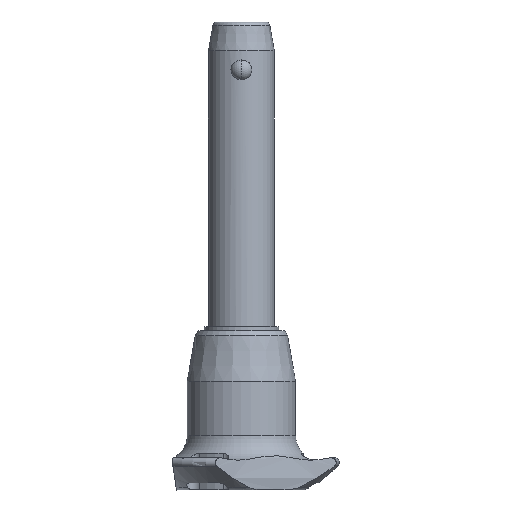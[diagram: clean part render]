
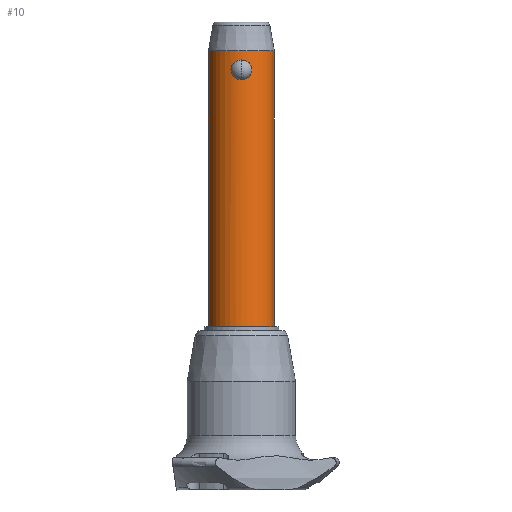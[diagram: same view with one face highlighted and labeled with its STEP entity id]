
A CAD part, front view. The second image highlights one B-rep face of the part: STEP entity #10.
In plain terms, the highlighted cylindrical face has radius 8 mm (diameter 16 mm), a partial arc.
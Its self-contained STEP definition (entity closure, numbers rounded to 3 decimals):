
#4 = VERTEX_POINT ( 'NONE', #998 ) ;
#10 = ADVANCED_FACE ( 'NONE', ( #275, #62 ), #1648, .T. ) ;
#62 = FACE_BOUND ( 'NONE', #1845, .T. ) ;
#83 = DIRECTION ( 'NONE',  ( 1., 0., 0. ) ) ;
#102 = CARTESIAN_POINT ( 'NONE',  ( 2.528, -7.59, 2.058 ) ) ;
#134 = CARTESIAN_POINT ( 'NONE',  ( 1.894, -7.773, 0.773 ) ) ;
#186 = EDGE_CURVE ( 'NONE', #1710, #4, #1014, .T. ) ;
#187 = CARTESIAN_POINT ( 'NONE',  ( -1.106, -7.925, 0.226 ) ) ;
#200 = CARTESIAN_POINT ( 'NONE',  ( -2.211, -7.69, 1.148 ) ) ;
#246 = AXIS2_PLACEMENT_3D ( 'NONE', #2065, #2083, #83 ) ;
#275 = FACE_OUTER_BOUND ( 'NONE', #1431, .T. ) ;
#276 = CARTESIAN_POINT ( 'NONE',  ( -8., 0., -60. ) ) ;
#296 = CARTESIAN_POINT ( 'NONE',  ( 0., -8., 4.775 ) ) ;
#299 = CARTESIAN_POINT ( 'NONE',  ( 2.004, -7.746, 0.894 ) ) ;
#375 = CARTESIAN_POINT ( 'NONE',  ( -2.529, -7.59, 2.716 ) ) ;
#387 = CARTESIAN_POINT ( 'NONE',  ( -2.546, -7.584, 2.553 ) ) ;
#396 = CIRCLE ( 'NONE', #246, 8. ) ;
#405 = CARTESIAN_POINT ( 'NONE',  ( -2.276, -7.67, 3.482 ) ) ;
#419 = CARTESIAN_POINT ( 'NONE',  ( -2.411, -7.628, 1.592 ) ) ;
#424 = DIRECTION ( 'NONE',  ( 0., 0., 1. ) ) ;
#475 = CARTESIAN_POINT ( 'NONE',  ( 8., 0., -60. ) ) ;
#504 = CARTESIAN_POINT ( 'NONE',  ( 2.529, -7.59, 2.71 ) ) ;
#541 = ORIENTED_EDGE ( 'NONE', *, *, #186, .F. ) ;
#548 = CARTESIAN_POINT ( 'NONE',  ( 2.46, -7.613, 1.742 ) ) ;
#563 = CARTESIAN_POINT ( 'NONE',  ( 0., -8., 0. ) ) ;
#573 = CARTESIAN_POINT ( 'NONE',  ( 8., 0., 7. ) ) ;
#591 = CARTESIAN_POINT ( 'NONE',  ( 0., -8., 0. ) ) ;
#631 = CARTESIAN_POINT ( 'NONE',  ( -1.107, -7.924, 4.548 ) ) ;
#644 = CARTESIAN_POINT ( 'NONE',  ( 8., 0., -60. ) ) ;
#654 = EDGE_CURVE ( 'NONE', #2525, #1710, #396, .T. ) ;
#759 = CARTESIAN_POINT ( 'NONE',  ( 0.326, -7.995, 4.761 ) ) ;
#780 = CARTESIAN_POINT ( 'NONE',  ( 0.804, -7.961, 4.661 ) ) ;
#795 = VERTEX_POINT ( 'NONE', #296 ) ;
#803 = CARTESIAN_POINT ( 'NONE',  ( -0.324, -8., 0. ) ) ;
#832 = CARTESIAN_POINT ( 'NONE',  ( -1.254, -7.902, 0.297 ) ) ;
#861 = CARTESIAN_POINT ( 'NONE',  ( -0.645, -7.976, 4.704 ) ) ;
#882 = EDGE_CURVE ( 'NONE', #795, #906, #1556, .T. ) ;
#897 = EDGE_CURVE ( 'NONE', #2525, #1880, #2637, .T. ) ;
#906 = VERTEX_POINT ( 'NONE', #1251 ) ;
#931 = CARTESIAN_POINT ( 'NONE',  ( 0., 0., -60. ) ) ;
#943 = CARTESIAN_POINT ( 'NONE',  ( 1.108, -7.924, 4.548 ) ) ;
#957 = CARTESIAN_POINT ( 'NONE',  ( 2.461, -7.612, 3.027 ) ) ;
#971 = CARTESIAN_POINT ( 'NONE',  ( 0.164, -8., 4.775 ) ) ;
#998 = CARTESIAN_POINT ( 'NONE',  ( -8., 0., 7. ) ) ;
#1003 = VECTOR ( 'NONE', #424, 1000. ) ;
#1007 = CARTESIAN_POINT ( 'NONE',  ( 1.66, -7.827, 4.215 ) ) ;
#1014 = LINE ( 'NONE', #1448, #1003 ) ;
#1047 = CARTESIAN_POINT ( 'NONE',  ( -2.193, -7.694, 3.623 ) ) ;
#1070 = CARTESIAN_POINT ( 'NONE',  ( -1.659, -7.827, 0.559 ) ) ;
#1159 = ORIENTED_EDGE ( 'NONE', *, *, #897, .T. ) ;
#1160 = DIRECTION ( 'NONE',  ( 0., 0., 1. ) ) ;
#1173 = CARTESIAN_POINT ( 'NONE',  ( 2.546, -7.584, 2.22 ) ) ;
#1203 = CARTESIAN_POINT ( 'NONE',  ( 2.275, -7.67, 1.291 ) ) ;
#1221 = CARTESIAN_POINT ( 'NONE',  ( 1.529, -7.854, 0.463 ) ) ;
#1229 = ORIENTED_EDGE ( 'NONE', *, *, #882, .F. ) ;
#1249 = DIRECTION ( 'NONE',  ( 0., 0., -1. ) ) ;
#1251 = CARTESIAN_POINT ( 'NONE',  ( 0., -8., 0. ) ) ;
#1265 = CARTESIAN_POINT ( 'NONE',  ( -2.461, -7.612, 1.746 ) ) ;
#1279 = CARTESIAN_POINT ( 'NONE',  ( -2.459, -7.613, 3.036 ) ) ;
#1397 = VECTOR ( 'NONE', #1714, 1000. ) ;
#1408 = CARTESIAN_POINT ( 'NONE',  ( 2.41, -7.629, 3.184 ) ) ;
#1431 = EDGE_LOOP ( 'NONE', ( #541, #1911, #1159, #1719 ) ) ;
#1441 = CARTESIAN_POINT ( 'NONE',  ( 0., -8., 4.775 ) ) ;
#1448 = CARTESIAN_POINT ( 'NONE',  ( -8., 0., -60. ) ) ;
#1485 = EDGE_CURVE ( 'NONE', #906, #795, #2451, .T. ) ;
#1492 = CARTESIAN_POINT ( 'NONE',  ( -1.252, -7.903, 4.479 ) ) ;
#1507 = CARTESIAN_POINT ( 'NONE',  ( -0.164, -8., 4.775 ) ) ;
#1556 = B_SPLINE_CURVE_WITH_KNOTS ( 'NONE', 3,
 ( #2303, #1507, #2845, #861, #2365, #631, #1492, #2391, #2605, #2406, #2175, #1047, #405, #2801, #1279, #375, #387, #2418, #1687, #1265, #419, #200, #1904, #1070, #2146, #832, #187, #2582, #803, #591 ),
 .UNSPECIFIED., .F., .F.,
 ( 4, 2, 2, 2, 2, 2, 2, 2, 2, 2, 2, 2, 2, 2, 4 ),
 ( 0., 0., 0.001, 0.001, 0.002, 0.002, 0.003, 0.003, 0.004, 0.004, 0.005, 0.006, 0.006, 0.007, 0.008 ),
 .UNSPECIFIED. ) ;
#1648 = CYLINDRICAL_SURFACE ( 'NONE', #2657, 8. ) ;
#1649 = ORIENTED_EDGE ( 'NONE', *, *, #1485, .F. ) ;
#1657 = CARTESIAN_POINT ( 'NONE',  ( 1.105, -7.925, 0.226 ) ) ;
#1672 = CARTESIAN_POINT ( 'NONE',  ( 1.252, -7.903, 0.296 ) ) ;
#1687 = CARTESIAN_POINT ( 'NONE',  ( -2.529, -7.59, 2.064 ) ) ;
#1710 = VERTEX_POINT ( 'NONE', #276 ) ;
#1714 = DIRECTION ( 'NONE',  ( 0., 0., 1. ) ) ;
#1719 = ORIENTED_EDGE ( 'NONE', *, *, #1863, .T. ) ;
#1844 = CARTESIAN_POINT ( 'NONE',  ( 2.016, -7.746, 3.891 ) ) ;
#1845 = EDGE_LOOP ( 'NONE', ( #1229, #1649 ) ) ;
#1863 = EDGE_CURVE ( 'NONE', #1880, #4, #2711, .T. ) ;
#1873 = AXIS2_PLACEMENT_3D ( 'NONE', #2328, #1249, #2143 ) ;
#1879 = CARTESIAN_POINT ( 'NONE',  ( 2.408, -7.629, 1.586 ) ) ;
#1880 = VERTEX_POINT ( 'NONE', #573 ) ;
#1894 = CARTESIAN_POINT ( 'NONE',  ( 1.657, -7.827, 0.558 ) ) ;
#1904 = CARTESIAN_POINT ( 'NONE',  ( -2.016, -7.746, 0.883 ) ) ;
#1911 = ORIENTED_EDGE ( 'NONE', *, *, #654, .F. ) ;
#2065 = CARTESIAN_POINT ( 'NONE',  ( 0., 0., -60. ) ) ;
#2072 = CARTESIAN_POINT ( 'NONE',  ( 0.324, -8., 0. ) ) ;
#2083 = DIRECTION ( 'NONE',  ( 0., 0., -1. ) ) ;
#2086 = CARTESIAN_POINT ( 'NONE',  ( 1.253, -7.903, 4.478 ) ) ;
#2122 = CARTESIAN_POINT ( 'NONE',  ( 2.211, -7.69, 3.626 ) ) ;
#2143 = DIRECTION ( 'NONE',  ( 1., 0., 0. ) ) ;
#2146 = CARTESIAN_POINT ( 'NONE',  ( -1.53, -7.854, 0.464 ) ) ;
#2175 = CARTESIAN_POINT ( 'NONE',  ( -2.003, -7.746, 3.882 ) ) ;
#2279 = DIRECTION ( 'NONE',  ( 1., 0., 0. ) ) ;
#2303 = CARTESIAN_POINT ( 'NONE',  ( 0., -8., 4.775 ) ) ;
#2318 = CARTESIAN_POINT ( 'NONE',  ( 0.652, -7.979, 0.058 ) ) ;
#2328 = CARTESIAN_POINT ( 'NONE',  ( 0., 0., 7. ) ) ;
#2365 = CARTESIAN_POINT ( 'NONE',  ( -0.803, -7.961, 4.661 ) ) ;
#2391 = CARTESIAN_POINT ( 'NONE',  ( -1.527, -7.854, 4.313 ) ) ;
#2406 = CARTESIAN_POINT ( 'NONE',  ( -1.896, -7.773, 4.001 ) ) ;
#2418 = CARTESIAN_POINT ( 'NONE',  ( -2.547, -7.584, 2.229 ) ) ;
#2451 = B_SPLINE_CURVE_WITH_KNOTS ( 'NONE', 3,
 ( #563, #2072, #2318, #1657, #1672, #1221, #1894, #134, #299, #2790, #1203, #1879, #548, #102, #1173, #2550, #504, #957, #1408, #2122, #1844, #1007, #2773, #2086, #943, #780, #2753, #759, #971, #1441 ),
 .UNSPECIFIED., .F., .F.,
 ( 4, 2, 2, 2, 2, 2, 2, 2, 2, 2, 2, 2, 2, 2, 4 ),
 ( 0.008, 0.009, 0.009, 0.01, 0.01, 0.011, 0.011, 0.012, 0.012, 0.013, 0.014, 0.014, 0.015, 0.015, 0.016 ),
 .UNSPECIFIED. ) ;
#2525 = VERTEX_POINT ( 'NONE', #475 ) ;
#2550 = CARTESIAN_POINT ( 'NONE',  ( 2.547, -7.584, 2.549 ) ) ;
#2582 = CARTESIAN_POINT ( 'NONE',  ( -0.652, -7.979, 0.058 ) ) ;
#2605 = CARTESIAN_POINT ( 'NONE',  ( -1.658, -7.827, 4.216 ) ) ;
#2637 = LINE ( 'NONE', #644, #1397 ) ;
#2657 = AXIS2_PLACEMENT_3D ( 'NONE', #931, #1160, #2279 ) ;
#2711 = CIRCLE ( 'NONE', #1873, 8. ) ;
#2753 = CARTESIAN_POINT ( 'NONE',  ( 0.645, -7.976, 4.704 ) ) ;
#2773 = CARTESIAN_POINT ( 'NONE',  ( 1.529, -7.854, 4.312 ) ) ;
#2790 = CARTESIAN_POINT ( 'NONE',  ( 2.194, -7.694, 1.153 ) ) ;
#2801 = CARTESIAN_POINT ( 'NONE',  ( -2.408, -7.629, 3.189 ) ) ;
#2845 = CARTESIAN_POINT ( 'NONE',  ( -0.326, -7.995, 4.761 ) ) ;
